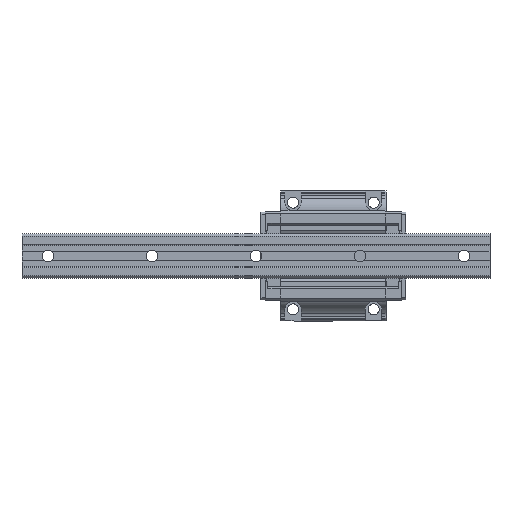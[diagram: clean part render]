
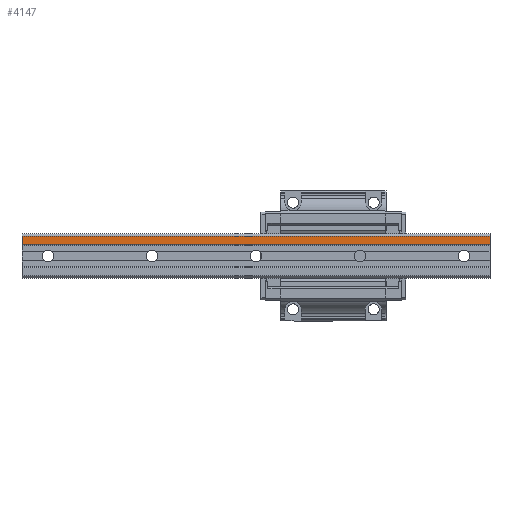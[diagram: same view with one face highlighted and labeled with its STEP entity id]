
A CAD part, front view. The second image highlights one B-rep face of the part: STEP entity #4147.
In plain terms, the highlighted planar face has unit normal (0, -1, 0).
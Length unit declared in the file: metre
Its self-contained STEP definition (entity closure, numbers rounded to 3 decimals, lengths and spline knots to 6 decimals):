
#4147 = ADVANCED_FACE( '', ( #8567 ), #8568, .F. );
#8567 = FACE_OUTER_BOUND( '', #21020, .T. );
#8568 = PLANE( '', #21021 );
#21020 = EDGE_LOOP( '', ( #34467, #34468, #34469, #34470 ) );
#21021 = AXIS2_PLACEMENT_3D( '', #34471, #34472, #34473 );
#34467 = ORIENTED_EDGE( '', *, *, #36513, .T. );
#34468 = ORIENTED_EDGE( '', *, *, #40456, .F. );
#34469 = ORIENTED_EDGE( '', *, *, #38313, .F. );
#34470 = ORIENTED_EDGE( '', *, *, #39029, .T. );
#34471 = CARTESIAN_POINT( '', ( 0.01, -0.007, 0.0321 ) );
#34472 = DIRECTION( '', ( 0., 1., 0. ) );
#34473 = DIRECTION( '', ( -1., 0., 0. ) );
#36513 = EDGE_CURVE( '', #42668, #42666, #42669, .T. );
#38313 = EDGE_CURVE( '', #45710, #45712, #45713, .T. );
#39029 = EDGE_CURVE( '', #45710, #42668, #46810, .T. );
#40456 = EDGE_CURVE( '', #45712, #42666, #48818, .T. );
#42666 = VERTEX_POINT( '', #52563 );
#42668 = VERTEX_POINT( '', #52566 );
#42669 = LINE( '', #52567, #52568 );
#45710 = VERTEX_POINT( '', #59406 );
#45712 = VERTEX_POINT( '', #59409 );
#45713 = LINE( '', #59410, #59411 );
#46810 = LINE( '', #61850, #61851 );
#48818 = LINE( '', #66307, #66308 );
#52563 = CARTESIAN_POINT( '', ( 0.36, -0.007, 0.0321 ) );
#52566 = CARTESIAN_POINT( '', ( 0.36, -0.007, 0.0259 ) );
#52567 = CARTESIAN_POINT( '', ( 0.36, -0.007, 0.0321 ) );
#52568 = VECTOR( '', #69382, 1. );
#59406 = CARTESIAN_POINT( '', ( 0., -0.007, 0.0259 ) );
#59409 = CARTESIAN_POINT( '', ( 0., -0.007, 0.0321 ) );
#59410 = CARTESIAN_POINT( '', ( 0., -0.007, 0.0321 ) );
#59411 = VECTOR( '', #70977, 1. );
#61850 = CARTESIAN_POINT( '', ( 0.01, -0.007, 0.0259 ) );
#61851 = VECTOR( '', #71656, 1. );
#66307 = CARTESIAN_POINT( '', ( 0.01, -0.007, 0.0321 ) );
#66308 = VECTOR( '', #72982, 1. );
#69382 = DIRECTION( '', ( 0., 0., 1. ) );
#70977 = DIRECTION( '', ( 0., 0., 1. ) );
#71656 = DIRECTION( '', ( 1., 0., 0. ) );
#72982 = DIRECTION( '', ( 1., 0., 0. ) );
